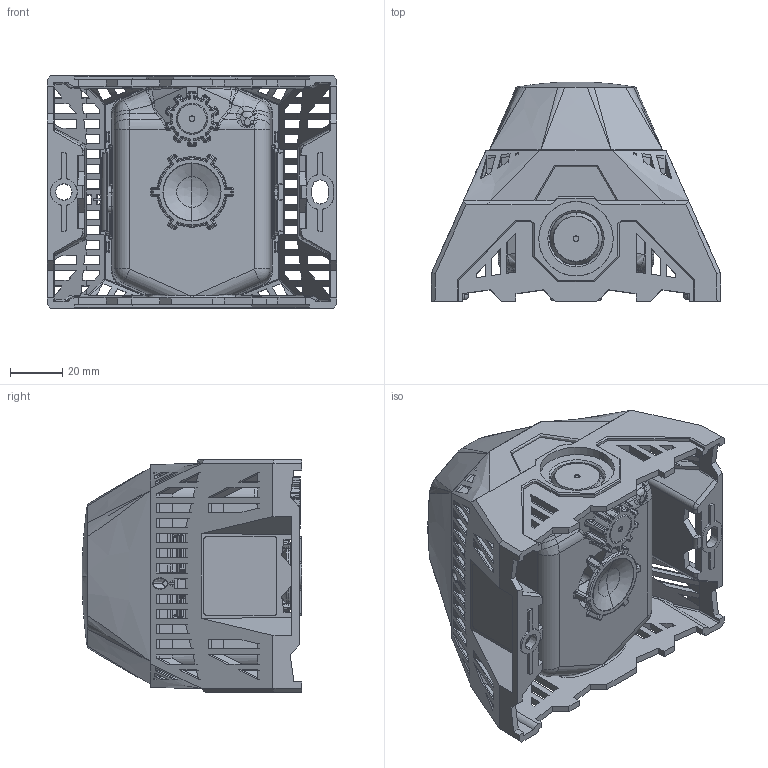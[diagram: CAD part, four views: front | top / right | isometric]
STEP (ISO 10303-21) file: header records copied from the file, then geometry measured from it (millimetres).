
FILE_DESCRIPTION (( 'STEP AP214' ), '1' );
FILE_NAME ('PA L-1-R_30462-100.STEP', '2023-11-10T14:34:08', ( '' ), ( '' ), 'SwSTEP 2.0', 'SolidWorks 2021', '' );
FILE_SCHEMA (( 'AUTOMOTIVE_DESIGN' ));
Length unit declared in the file: millimetre
Products named in the file (1): PA L-1-R_30462-100
Bounding box: 110.84 x 83.95 x 89 mm (x, y, z)
Volume: 126288.6 mm3; surface area: 99960.6 mm2
Topology: 5 solids, 5 shells, 3180 faces, 7858 edges, 4600 vertices
Faces by surface type: plane 1149, bspline 876, cylinder 732, sphere 181, cone 136, torus 106
Entity records: 156659 total; most frequent: CARTESIAN_POINT 54774, ORIENTED_EDGE 15564, DIRECTION 11758, EDGE_CURVE 7782, VERTEX_POINT 4600, AXIS2_PLACEMENT_3D 4000, VECTOR 3758, LINE 3758
